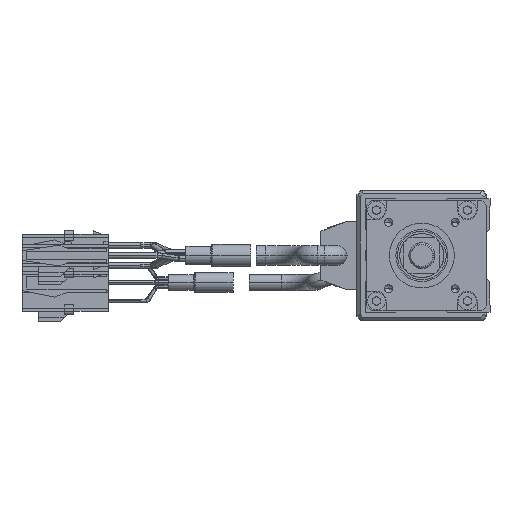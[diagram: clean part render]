
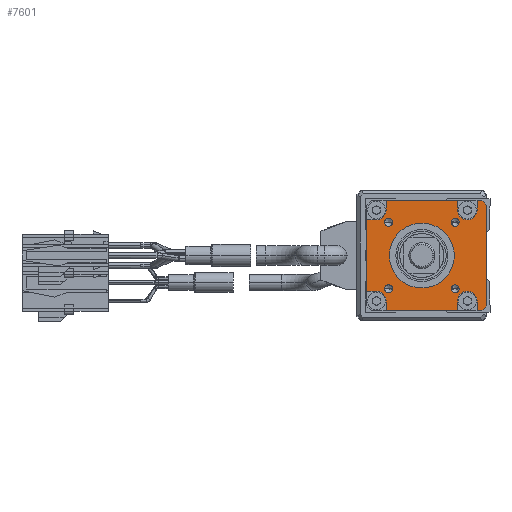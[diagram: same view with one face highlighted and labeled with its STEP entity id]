
A CAD part, left-side view. The second image highlights one B-rep face of the part: STEP entity #7601.
In plain terms, the highlighted planar face has unit normal (-1, 0, 0).
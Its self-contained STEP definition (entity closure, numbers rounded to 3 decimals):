
#1373=DIRECTION('',(0.,1.,0.));
#1374=VECTOR('',#1373,22.);
#1375=CARTESIAN_POINT('',(-227.5,10.,-17.));
#1376=LINE('',#1375,#1374);
#1381=DIRECTION('',(0.,1.,0.));
#1382=VECTOR('',#1381,1.5);
#1383=CARTESIAN_POINT('',(-227.5,2.5,-17.));
#1384=LINE('',#1383,#1382);
#1405=DIRECTION('',(0.,0.,1.));
#1406=VECTOR('',#1405,22.);
#1407=CARTESIAN_POINT('',(-227.5,38.,-11.));
#1408=LINE('',#1407,#1406);
#1429=DIRECTION('',(0.,-1.,0.));
#1430=VECTOR('',#1429,1.5);
#1431=CARTESIAN_POINT('',(-227.5,4.,17.));
#1432=LINE('',#1431,#1430);
#1433=DIRECTION('',(0.,-1.,0.));
#1434=VECTOR('',#1433,22.);
#1435=CARTESIAN_POINT('',(-227.5,32.,17.));
#1436=LINE('',#1435,#1434);
#1449=DIRECTION('',(0.,0.,-1.));
#1450=VECTOR('',#1449,31.);
#1451=CARTESIAN_POINT('',(-227.5,1.,15.5));
#1452=LINE('',#1451,#1450);
#1925=DIRECTION('',(0.,0.707,-0.707));
#1926=VECTOR('',#1925,2.121);
#1927=CARTESIAN_POINT('',(-227.5,1.,-15.5));
#1928=LINE('',#1927,#1926);
#1929=CARTESIAN_POINT('',(-227.5,7.,-14.));
#1930=DIRECTION('',(-1.,0.,0.));
#1931=DIRECTION('',(0.,-1.,0.));
#1932=AXIS2_PLACEMENT_3D('',#1929,#1930,#1931);
#1934=CARTESIAN_POINT('',(-227.5,35.,-14.));
#1935=DIRECTION('',(-1.,0.,0.));
#1936=DIRECTION('',(0.,-1.,0.));
#1937=AXIS2_PLACEMENT_3D('',#1934,#1935,#1936);
#1939=CARTESIAN_POINT('',(-227.5,35.,14.));
#1940=DIRECTION('',(-1.,0.,0.));
#1941=DIRECTION('',(0.,0.,-1.));
#1942=AXIS2_PLACEMENT_3D('',#1939,#1940,#1941);
#1944=CARTESIAN_POINT('',(-227.5,7.,14.));
#1945=DIRECTION('',(-1.,0.,0.));
#1946=DIRECTION('',(0.,1.,0.));
#1947=AXIS2_PLACEMENT_3D('',#1944,#1945,#1946);
#1949=DIRECTION('',(0.,-0.707,-0.707));
#1950=VECTOR('',#1949,2.121);
#1951=CARTESIAN_POINT('',(-227.5,2.5,17.));
#1952=LINE('',#1951,#1950);
#1953=CARTESIAN_POINT('',(-227.5,31.253,-10.253));
#1954=DIRECTION('',(-1.,0.,0.));
#1955=DIRECTION('',(0.,1.,0.));
#1956=AXIS2_PLACEMENT_3D('',#1953,#1954,#1955);
#1958=CARTESIAN_POINT('',(-227.5,31.253,-10.253));
#1959=DIRECTION('',(-1.,0.,0.));
#1960=DIRECTION('',(0.,-1.,0.));
#1961=AXIS2_PLACEMENT_3D('',#1958,#1959,#1960);
#1963=CARTESIAN_POINT('',(-227.5,10.747,-10.253));
#1964=DIRECTION('',(-1.,0.,0.));
#1965=DIRECTION('',(0.,1.,0.));
#1966=AXIS2_PLACEMENT_3D('',#1963,#1964,#1965);
#1968=CARTESIAN_POINT('',(-227.5,10.747,-10.253));
#1969=DIRECTION('',(-1.,0.,0.));
#1970=DIRECTION('',(0.,-1.,0.));
#1971=AXIS2_PLACEMENT_3D('',#1968,#1969,#1970);
#1973=CARTESIAN_POINT('',(-227.5,10.747,10.253));
#1974=DIRECTION('',(-1.,0.,0.));
#1975=DIRECTION('',(0.,1.,0.));
#1976=AXIS2_PLACEMENT_3D('',#1973,#1974,#1975);
#1978=CARTESIAN_POINT('',(-227.5,10.747,10.253));
#1979=DIRECTION('',(-1.,0.,0.));
#1980=DIRECTION('',(0.,-1.,0.));
#1981=AXIS2_PLACEMENT_3D('',#1978,#1979,#1980);
#1983=CARTESIAN_POINT('',(-227.5,31.253,10.253));
#1984=DIRECTION('',(-1.,0.,0.));
#1985=DIRECTION('',(0.,1.,0.));
#1986=AXIS2_PLACEMENT_3D('',#1983,#1984,#1985);
#1988=CARTESIAN_POINT('',(-227.5,31.253,10.253));
#1989=DIRECTION('',(-1.,0.,0.));
#1990=DIRECTION('',(0.,-1.,0.));
#1991=AXIS2_PLACEMENT_3D('',#1988,#1989,#1990);
#1993=CARTESIAN_POINT('',(-227.5,21.,0.));
#1994=DIRECTION('',(-1.,0.,0.));
#1995=DIRECTION('',(0.,-1.,0.));
#1996=AXIS2_PLACEMENT_3D('',#1993,#1994,#1995);
#1998=CARTESIAN_POINT('',(-227.5,21.,0.));
#1999=DIRECTION('',(-1.,0.,0.));
#2000=DIRECTION('',(0.,1.,0.));
#2001=AXIS2_PLACEMENT_3D('',#1998,#1999,#2000);
#2003=DIRECTION('',(0.,0.,-1.));
#2004=VECTOR('',#2003,3.);
#2005=CARTESIAN_POINT('',(-227.5,4.,-14.));
#2006=LINE('',#2005,#2004);
#2030=DIRECTION('',(0.,0.,1.));
#2031=VECTOR('',#2030,3.);
#2032=CARTESIAN_POINT('',(-227.5,10.,-17.));
#2033=LINE('',#2032,#2031);
#2140=DIRECTION('',(0.,0.,-1.));
#2141=VECTOR('',#2140,3.);
#2142=CARTESIAN_POINT('',(-227.5,32.,-14.));
#2143=LINE('',#2142,#2141);
#2171=DIRECTION('',(0.,-1.,0.));
#2172=VECTOR('',#2171,3.);
#2173=CARTESIAN_POINT('',(-227.5,38.,-11.));
#2174=LINE('',#2173,#2172);
#2281=DIRECTION('',(0.,1.,0.));
#2282=VECTOR('',#2281,3.);
#2283=CARTESIAN_POINT('',(-227.5,35.,11.));
#2284=LINE('',#2283,#2282);
#2316=DIRECTION('',(0.,0.,-1.));
#2317=VECTOR('',#2316,3.);
#2318=CARTESIAN_POINT('',(-227.5,32.,17.));
#2319=LINE('',#2318,#2317);
#2426=DIRECTION('',(0.,0.,1.));
#2427=VECTOR('',#2426,3.);
#2428=CARTESIAN_POINT('',(-227.5,10.,14.));
#2429=LINE('',#2428,#2427);
#2457=DIRECTION('',(0.,0.,-1.));
#2458=VECTOR('',#2457,3.);
#2459=CARTESIAN_POINT('',(-227.5,4.,17.));
#2460=LINE('',#2459,#2458);
#4129=CARTESIAN_POINT('',(-227.5,11.,0.));
#4130=CARTESIAN_POINT('',(-227.5,31.,0.));
#4131=VERTEX_POINT('',#4129);
#4132=VERTEX_POINT('',#4130);
#4133=CARTESIAN_POINT('',(-227.5,1.,-15.5));
#4134=CARTESIAN_POINT('',(-227.5,2.5,-17.));
#4135=VERTEX_POINT('',#4133);
#4136=VERTEX_POINT('',#4134);
#4137=CARTESIAN_POINT('',(-227.5,1.,15.5));
#4138=VERTEX_POINT('',#4137);
#4139=CARTESIAN_POINT('',(-227.5,2.5,17.));
#4140=VERTEX_POINT('',#4139);
#4141=CARTESIAN_POINT('',(-227.5,4.,17.));
#4142=VERTEX_POINT('',#4141);
#4143=CARTESIAN_POINT('',(-227.5,4.,14.));
#4144=VERTEX_POINT('',#4143);
#4145=CARTESIAN_POINT('',(-227.5,10.,14.));
#4146=VERTEX_POINT('',#4145);
#4147=CARTESIAN_POINT('',(-227.5,10.,17.));
#4148=VERTEX_POINT('',#4147);
#4149=CARTESIAN_POINT('',(-227.5,32.,17.));
#4150=VERTEX_POINT('',#4149);
#4151=CARTESIAN_POINT('',(-227.5,32.,14.));
#4152=VERTEX_POINT('',#4151);
#4153=CARTESIAN_POINT('',(-227.5,35.,11.));
#4154=VERTEX_POINT('',#4153);
#4155=CARTESIAN_POINT('',(-227.5,38.,11.));
#4156=VERTEX_POINT('',#4155);
#4157=CARTESIAN_POINT('',(-227.5,38.,-11.));
#4158=VERTEX_POINT('',#4157);
#4159=CARTESIAN_POINT('',(-227.5,35.,-11.));
#4160=VERTEX_POINT('',#4159);
#4161=CARTESIAN_POINT('',(-227.5,32.,-14.));
#4162=VERTEX_POINT('',#4161);
#4163=CARTESIAN_POINT('',(-227.5,32.,-17.));
#4164=VERTEX_POINT('',#4163);
#4165=CARTESIAN_POINT('',(-227.5,10.,-17.));
#4166=VERTEX_POINT('',#4165);
#4167=CARTESIAN_POINT('',(-227.5,10.,-14.));
#4168=VERTEX_POINT('',#4167);
#4169=CARTESIAN_POINT('',(-227.5,4.,-14.));
#4170=VERTEX_POINT('',#4169);
#4171=CARTESIAN_POINT('',(-227.5,4.,-17.));
#4172=VERTEX_POINT('',#4171);
#4173=CARTESIAN_POINT('',(-227.5,32.503,-10.253));
#4174=CARTESIAN_POINT('',(-227.5,30.003,-10.253));
#4175=VERTEX_POINT('',#4173);
#4176=VERTEX_POINT('',#4174);
#4177=CARTESIAN_POINT('',(-227.5,11.997,-10.253));
#4178=CARTESIAN_POINT('',(-227.5,9.497,-10.253));
#4179=VERTEX_POINT('',#4177);
#4180=VERTEX_POINT('',#4178);
#4181=CARTESIAN_POINT('',(-227.5,11.997,10.253));
#4182=CARTESIAN_POINT('',(-227.5,9.497,10.253));
#4183=VERTEX_POINT('',#4181);
#4184=VERTEX_POINT('',#4182);
#4185=CARTESIAN_POINT('',(-227.5,32.503,10.253));
#4186=CARTESIAN_POINT('',(-227.5,30.003,10.253));
#4187=VERTEX_POINT('',#4185);
#4188=VERTEX_POINT('',#4186);
#7532=CARTESIAN_POINT('',(-227.5,19.5,0.));
#7533=DIRECTION('',(1.,0.,0.));
#7534=DIRECTION('',(0.,0.,-1.));
#7535=AXIS2_PLACEMENT_3D('',#7532,#7533,#7534);
#7536=PLANE('',#7535);
#7537=ORIENTED_EDGE('',*,*,#6645,.T.);
#7538=ORIENTED_EDGE('',*,*,#6674,.T.);
#7540=ORIENTED_EDGE('',*,*,#7539,.F.);
#7542=ORIENTED_EDGE('',*,*,#7541,.T.);
#7544=ORIENTED_EDGE('',*,*,#7543,.F.);
#7545=ORIENTED_EDGE('',*,*,#6666,.T.);
#7547=ORIENTED_EDGE('',*,*,#7546,.F.);
#7549=ORIENTED_EDGE('',*,*,#7548,.T.);
#7551=ORIENTED_EDGE('',*,*,#7550,.F.);
#7552=ORIENTED_EDGE('',*,*,#6708,.T.);
#7554=ORIENTED_EDGE('',*,*,#7553,.F.);
#7556=ORIENTED_EDGE('',*,*,#7555,.T.);
#7558=ORIENTED_EDGE('',*,*,#7557,.F.);
#7559=ORIENTED_EDGE('',*,*,#6750,.T.);
#7561=ORIENTED_EDGE('',*,*,#7560,.F.);
#7563=ORIENTED_EDGE('',*,*,#7562,.T.);
#7565=ORIENTED_EDGE('',*,*,#7564,.F.);
#7566=ORIENTED_EDGE('',*,*,#6742,.T.);
#7567=ORIENTED_EDGE('',*,*,#6768,.T.);
#7568=ORIENTED_EDGE('',*,*,#6783,.T.);
#7569=EDGE_LOOP('',(#7537,#7538,#7540,#7542,#7544,#7545,#7547,#7549,#7551,#7552,
#7554,#7556,#7558,#7559,#7561,#7563,#7565,#7566,#7567,#7568));
#7570=FACE_OUTER_BOUND('',#7569,.F.);
#7572=ORIENTED_EDGE('',*,*,#7571,.T.);
#7574=ORIENTED_EDGE('',*,*,#7573,.T.);
#7575=EDGE_LOOP('',(#7572,#7574));
#7576=FACE_BOUND('',#7575,.F.);
#7578=ORIENTED_EDGE('',*,*,#7577,.T.);
#7580=ORIENTED_EDGE('',*,*,#7579,.T.);
#7581=EDGE_LOOP('',(#7578,#7580));
#7582=FACE_BOUND('',#7581,.F.);
#7584=ORIENTED_EDGE('',*,*,#7583,.T.);
#7586=ORIENTED_EDGE('',*,*,#7585,.T.);
#7587=EDGE_LOOP('',(#7584,#7586));
#7588=FACE_BOUND('',#7587,.F.);
#7590=ORIENTED_EDGE('',*,*,#7589,.T.);
#7592=ORIENTED_EDGE('',*,*,#7591,.T.);
#7593=EDGE_LOOP('',(#7590,#7592));
#7594=FACE_BOUND('',#7593,.F.);
#7596=ORIENTED_EDGE('',*,*,#7595,.T.);
#7598=ORIENTED_EDGE('',*,*,#7597,.T.);
#7599=EDGE_LOOP('',(#7596,#7598));
#7600=FACE_BOUND('',#7599,.F.);
#7601=ADVANCED_FACE('',(#7570,#7576,#7582,#7588,#7594,#7600),#7536,.F.);
#1933=CIRCLE('',#1932,3.);
#1938=CIRCLE('',#1937,3.);
#1943=CIRCLE('',#1942,3.);
#1948=CIRCLE('',#1947,3.);
#1957=CIRCLE('',#1956,1.25);
#1962=CIRCLE('',#1961,1.25);
#1967=CIRCLE('',#1966,1.25);
#1972=CIRCLE('',#1971,1.25);
#1977=CIRCLE('',#1976,1.25);
#1982=CIRCLE('',#1981,1.25);
#1987=CIRCLE('',#1986,1.25);
#1992=CIRCLE('',#1991,1.25);
#1997=CIRCLE('',#1996,10.);
#2002=CIRCLE('',#2001,10.);
#6645=EDGE_CURVE('',#4135,#4136,#1928,.T.);
#6666=EDGE_CURVE('',#4166,#4164,#1376,.T.);
#6674=EDGE_CURVE('',#4136,#4172,#1384,.T.);
#6708=EDGE_CURVE('',#4158,#4156,#1408,.T.);
#6742=EDGE_CURVE('',#4142,#4140,#1432,.T.);
#6750=EDGE_CURVE('',#4150,#4148,#1436,.T.);
#6768=EDGE_CURVE('',#4140,#4138,#1952,.T.);
#6783=EDGE_CURVE('',#4138,#4135,#1452,.T.);
#7539=EDGE_CURVE('',#4170,#4172,#2006,.T.);
#7541=EDGE_CURVE('',#4170,#4168,#1933,.T.);
#7543=EDGE_CURVE('',#4166,#4168,#2033,.T.);
#7546=EDGE_CURVE('',#4162,#4164,#2143,.T.);
#7548=EDGE_CURVE('',#4162,#4160,#1938,.T.);
#7550=EDGE_CURVE('',#4158,#4160,#2174,.T.);
#7553=EDGE_CURVE('',#4154,#4156,#2284,.T.);
#7555=EDGE_CURVE('',#4154,#4152,#1943,.T.);
#7557=EDGE_CURVE('',#4150,#4152,#2319,.T.);
#7560=EDGE_CURVE('',#4146,#4148,#2429,.T.);
#7562=EDGE_CURVE('',#4146,#4144,#1948,.T.);
#7564=EDGE_CURVE('',#4142,#4144,#2460,.T.);
#7571=EDGE_CURVE('',#4175,#4176,#1957,.T.);
#7573=EDGE_CURVE('',#4176,#4175,#1962,.T.);
#7577=EDGE_CURVE('',#4179,#4180,#1967,.T.);
#7579=EDGE_CURVE('',#4180,#4179,#1972,.T.);
#7583=EDGE_CURVE('',#4183,#4184,#1977,.T.);
#7585=EDGE_CURVE('',#4184,#4183,#1982,.T.);
#7589=EDGE_CURVE('',#4187,#4188,#1987,.T.);
#7591=EDGE_CURVE('',#4188,#4187,#1992,.T.);
#7595=EDGE_CURVE('',#4131,#4132,#1997,.T.);
#7597=EDGE_CURVE('',#4132,#4131,#2002,.T.);
